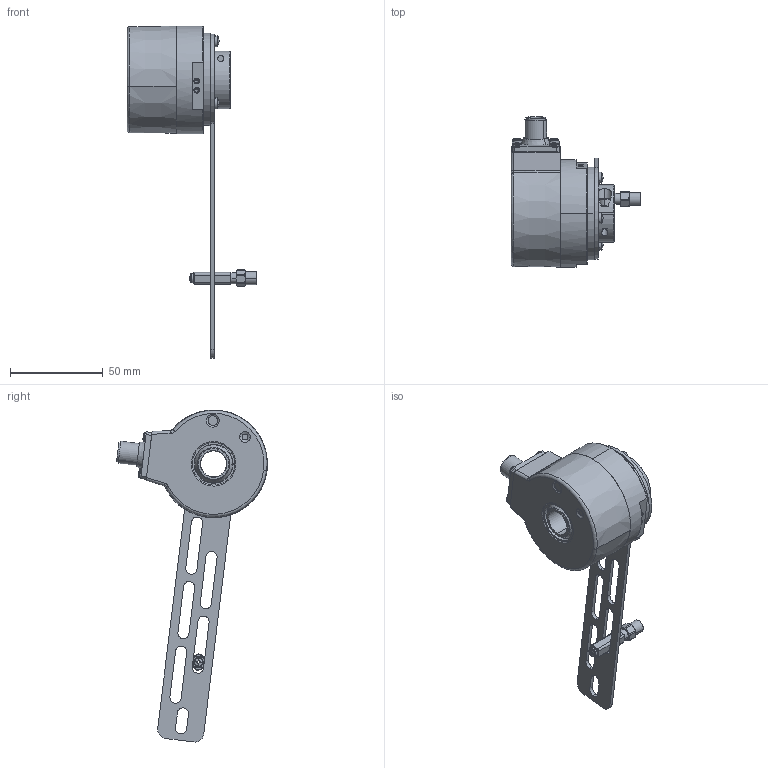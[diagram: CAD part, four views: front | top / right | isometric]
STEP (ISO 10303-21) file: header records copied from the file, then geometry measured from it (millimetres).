
FILE_DESCRIPTION (( 'STEP AP214' ), '1' );
FILE_NAME ('5834SIL.A5X6.XXXX.STEP', '2010-08-13T08:08:58', ( 'admin' ), ( 'Fritz Kübler GmbH' ), 'SwSTEP 2.0', 'SolidWorks 2009', '' );
FILE_SCHEMA (( 'AUTOMOTIVE_DESIGN' ));
Length unit declared in the file: millimetre
Products named in the file (1): 5834SIL.A5X6.XXXX
Bounding box: 70 x 81.25 x 178.83 mm (x, y, z)
Surface area: 32053.5 mm2 (no closed solid volume)
Topology: 0 solids, 29 shells, 418 faces, 1200 edges, 799 vertices
Faces by surface type: plane 169, cylinder 131, cone 60, sphere 32, torus 22, bspline 4
Entity records: 18905 total; most frequent: CARTESIAN_POINT 3284, DIRECTION 2483, ORIENTED_EDGE 2049, EDGE_CURVE 1168, AXIS2_PLACEMENT_3D 972, VERTEX_POINT 783, CIRCLE 557, VECTOR 539
